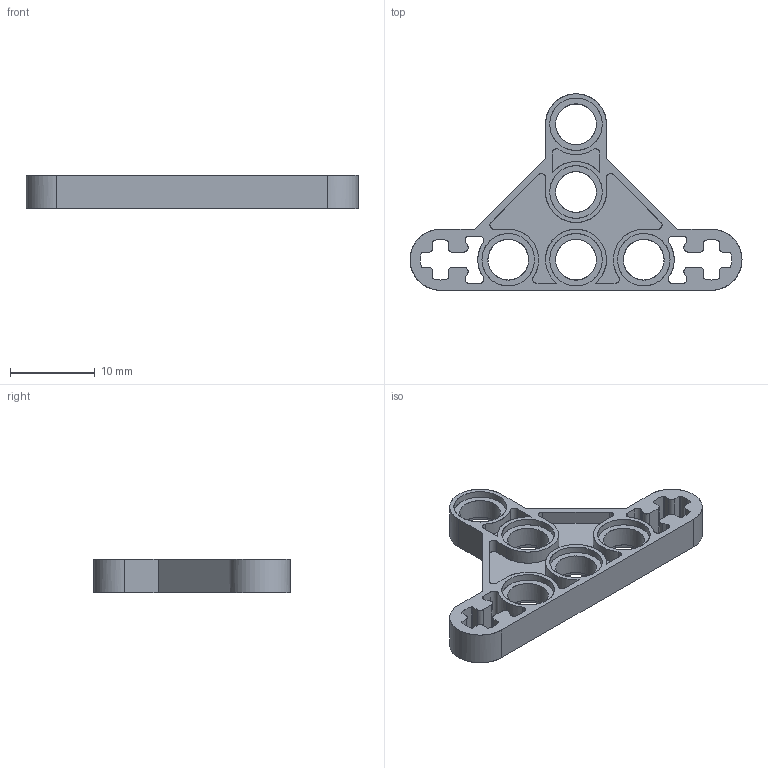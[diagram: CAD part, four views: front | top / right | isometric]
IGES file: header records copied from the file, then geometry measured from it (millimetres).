
Start section: C
Global section: file name: Ye_6010863_AVV.iges; native system: By Siemens PLM Incorporated; preprocessor: XPlus GENERIC/IGES 26.1.183; author: Author; organization: Title; date: 20250722.001053; units: millimetre
Bounding box: 39.2 x 23.2 x 4 mm (x, y, z)
Surface area: 1934.3 mm2 (no closed solid volume)
Topology: 0 solids, 0 shells, 167 faces, 974 edges, 974 vertices
Faces by surface type: bspline 167
